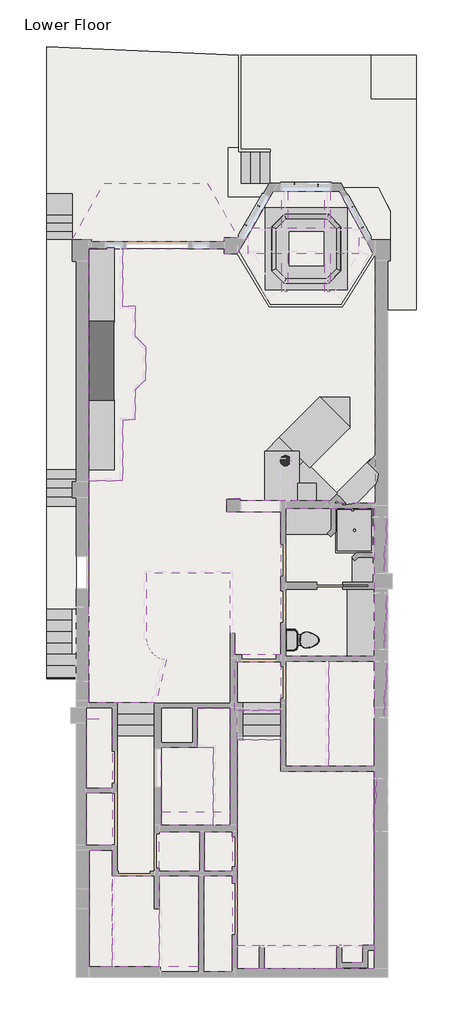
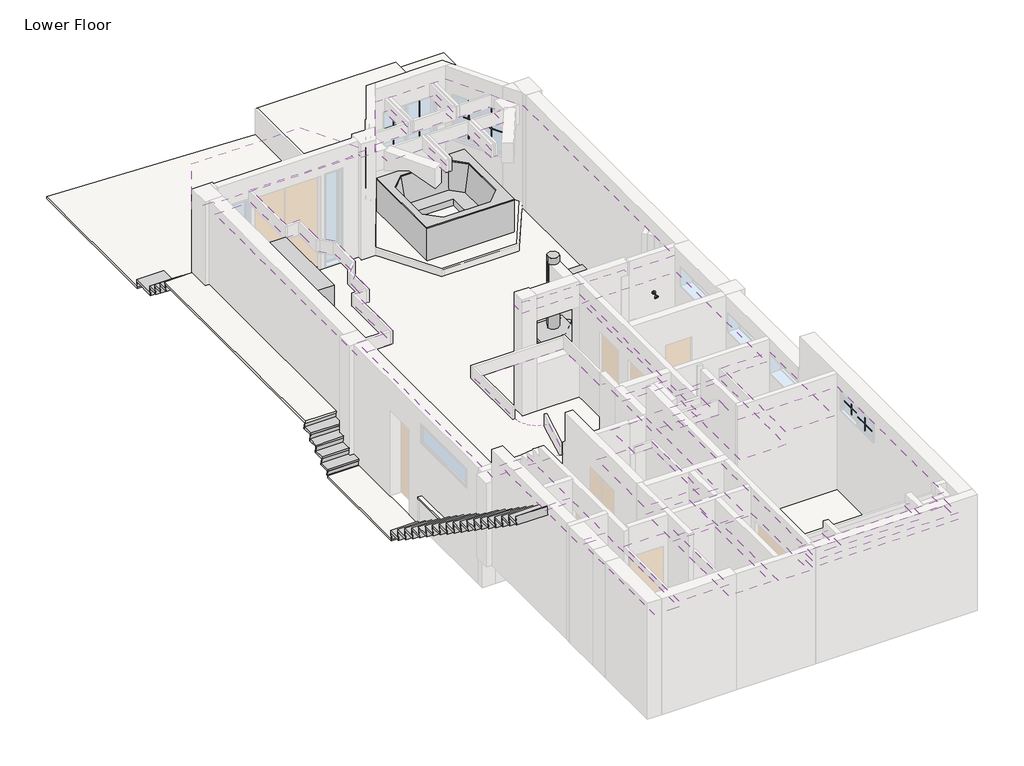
# One storey, part 4 of 4: 27 proxies, 22 coverings, 12 slabs, 6 stair flights, 4 flow terminals, 1 column, 1 furniture element.
"""IFC4 building model written with IfcOpenShell, lengths in millimetres."""

from ifc_helpers import new_model, si_unit, point, frame, frame_2d, origin, origin_with_axes, place, context, project, spatial, polyline, circle_curve, trimmed, segment, composite_curve, outline, extrude, transform, mapped, element, save
from components import countertop_rectangle_shape_base_default_1_dabe7d19, countertop_rectangle_shape_base_default_1_3828c231, countertop_rectangle_shape_base_default_1_d0c3f7c2, countertop_rectangle_shape_base_default_1_6354a859, countertop_rectangle_shape_base_default_1_48722834, countertop_rectangle_shape_base_default_1_b1be43f6, countertop_rectangle_shape_base_default_1_043f96cc, countertop_rectangle_shape_base_default_1_dfdfaf2e, countertop_rectangle_shape_base_default_1_419f4a6f, countertop_rectangle_shape_base_default_1_692601e1, countertop_rectangle_shape_base_default_1_f7c01886, countertop_rectangle_shape_base_default_1_2039a246, fireplace_default_1_0e99d6f0, muntin_pattern_2x2_muntin_pattern_2x2_58ab9d3a, muntin_pattern_2x2_muntin_pattern_2x2_46a83522, muntin_pattern_2x2_muntin_pattern_2x2_2c45d3f9, muntin_pattern_2x2_muntin_pattern_2x2_764e81ae, bath_shower_basin_rectangular_default_1_7944e005, default_1_5ae3063e, default_1_a9700879, toilet_default_1_5cb52bd4, toilet_default_1_183bbd19, furniture_096bb673, stair_flight_50mm_tread_25mm_nosing_13mm_riser_e6fdfd2e, stair_flight_50mm_tread_25mm_nosing_13mm_riser_114795e4, stair_flight_50mm_tread_25mm_nosing_13mm_riser_46b21143, stair_flight_50mm_tread_25mm_nosing_13mm_riser_50f6e7d9, stair_flight_50mm_tread_25mm_nosing_13mm_riser_f689957c, stair_flight_50mm_tread_25mm_nosing_13mm_riser_b3e14c1b

model = new_model("IFC4")

# Units and contexts
model_context = context("Model", 3, world=origin())
ifc_project = project(units=[si_unit("LENGTHUNIT", "METRE", prefix="MILLI")], contexts=[model_context])

# Site, building, storey
site = spatial("IfcSite", under=ifc_project)
building = spatial("IfcBuilding", under=site)
storey = spatial("IfcBuildingStorey", under=building, Name="Lower Floor", Elevation=-2743.2)

# Proxies
placement = place(None, origin())
countertop_rectangle_shape_base_default_1_shape = countertop_rectangle_shape_base_default_1_dabe7d19(model_context)
element("IfcBuildingElementProxy", 1, Name="Countertop- Rectangle shape base : Default 1", ObjectType="Countertop- Rectangle shape base : Default 1", at=placement, inside=storey, context=model_context, shape_type="MappedRepresentation", body=[
    mapped(countertop_rectangle_shape_base_default_1_shape, transform((-5137.15, 9242.3564249, -2743.2), x_axis=(0.0, 1.0, 0.0), y_axis=(-1.0, 0.0, 0.0), z_axis=(0.0, 0.0, 1.0))),
])
countertop_rectangle_shape_base_default_1_2_shape = countertop_rectangle_shape_base_default_1_3828c231(model_context)
element("IfcBuildingElementProxy", 2, Name="Countertop- Rectangle shape base : Default 1", ObjectType="Countertop- Rectangle shape base : Default 1", at=placement, inside=storey, context=model_context, shape_type="MappedRepresentation", body=[
    mapped(countertop_rectangle_shape_base_default_1_2_shape, transform((-5137.15, 12785.725, -2743.2), x_axis=(0.0, 1.0, 0.0), y_axis=(-1.0, 0.0, 0.0), z_axis=(0.0, 0.0, 1.0))),
])
countertop_rectangle_shape_base_default_1_3_shape = countertop_rectangle_shape_base_default_1_d0c3f7c2(model_context)
element("IfcBuildingElementProxy", 3, Name="Countertop- Rectangle shape base : Default 1", ObjectType="Countertop- Rectangle shape base : Default 1", at=placement, inside=storey, context=model_context, shape_type="MappedRepresentation", body=[
    mapped(countertop_rectangle_shape_base_default_1_3_shape, transform((774.7, 10906.6021923, -2743.2), x_axis=(-1.0, 0.0, 0.0), y_axis=(0.0, -1.0, 0.0), z_axis=(0.0, 0.0, 1.0))),
])
countertop_rectangle_shape_base_default_1_4_shape = countertop_rectangle_shape_base_default_1_6354a859(model_context)
element("IfcBuildingElementProxy", 4, Name="Countertop- Rectangle shape base : Default 1", ObjectType="Countertop- Rectangle shape base : Default 1", at=placement, inside=storey, context=model_context, shape_type="MappedRepresentation", body=[
    mapped(countertop_rectangle_shape_base_default_1_4_shape, transform((-726.6076836, 9250.1769491, -2743.2), x_axis=(0.7071067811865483, 0.7071067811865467, 0.0), y_axis=(-0.7071067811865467, 0.7071067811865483, 0.0), z_axis=(0.0, 0.0, 1.0))),
])
countertop_rectangle_shape_base_default_1_5_shape = countertop_rectangle_shape_base_default_1_48722834(model_context)
element("IfcBuildingElementProxy", 5, Name="Countertop- Rectangle shape base : Default 1", ObjectType="Countertop- Rectangle shape base : Default 1", at=placement, inside=storey, context=model_context, shape_type="MappedRepresentation", body=[
    mapped(countertop_rectangle_shape_base_default_1_5_shape, transform((-905.8096327, 10301.9403673, -2743.2), x_axis=(-0.7071067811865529, -0.7071067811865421, 0.0), y_axis=(0.7071067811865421, -0.7071067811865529, 0.0), z_axis=(0.0, 0.0, 1.0))),
])
countertop_rectangle_shape_base_default_1_6_shape = countertop_rectangle_shape_base_default_1_b1be43f6(model_context)
element("IfcBuildingElementProxy", 6, Name="Countertop- Rectangle shape base : Default 1", ObjectType="Countertop- Rectangle shape base : Default 1", at=placement, inside=storey, context=model_context, shape_type="MappedRepresentation", body=[
    mapped(countertop_rectangle_shape_base_default_1_6_shape, transform((-1612.9, 9775.825, -2743.2), x_axis=(0.0, -1.0, 0.0), y_axis=(1.0, 0.0, 0.0), z_axis=(0.0, 0.0, 1.0))),
])
countertop_rectangle_shape_base_default_1_7_shape = countertop_rectangle_shape_base_default_1_043f96cc(model_context)
element("IfcBuildingElementProxy", 7, Name="Countertop- Rectangle shape base : Default 1", ObjectType="Countertop- Rectangle shape base : Default 1", at=placement, inside=storey, context=model_context, shape_type="MappedRepresentation", body=[
    mapped(countertop_rectangle_shape_base_default_1_7_shape, transform((285.9400541, 8563.2550929, -2743.2), x_axis=(-0.7036149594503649, 0.7105814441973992, 0.0), y_axis=(-0.7105814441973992, -0.7036149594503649, 0.0), z_axis=(0.0, 0.0, 1.0))),
])
countertop_rectangle_shape_base_default_1_8_shape = countertop_rectangle_shape_base_default_1_dfdfaf2e(model_context)
element("IfcBuildingElementProxy", 8, Name="Countertop- Rectangle shape base : Default 1", ObjectType="Countertop- Rectangle shape base : Default 1", at=placement, inside=storey, context=model_context, shape_type="MappedRepresentation", body=[
    mapped(countertop_rectangle_shape_base_default_1_8_shape, transform((-1406.525, 8255.0, -2743.2), x_axis=(1.0, 0.0, 0.0), y_axis=(0.0, 1.0, 0.0), z_axis=(0.0, 0.0, 1.0))),
])
countertop_rectangle_shape_base_default_1_9_shape = countertop_rectangle_shape_base_default_1_419f4a6f(model_context)
element("IfcBuildingElementProxy", 9, Name="Countertop- Rectangle shape base : Default 1", ObjectType="Countertop- Rectangle shape base : Default 1", at=placement, inside=storey, context=model_context, shape_type="MappedRepresentation", body=[
    mapped(countertop_rectangle_shape_base_default_1_9_shape, transform((-1371.6, 7581.9, -2743.2), x_axis=(1.0, 0.0, 0.0), y_axis=(0.0, 1.0, 0.0), z_axis=(0.0, 0.0, 1.0))),
])
countertop_rectangle_shape_base_default_1_10_shape = countertop_rectangle_shape_base_default_1_692601e1(model_context)
element("IfcBuildingElementProxy", 10, Name="Countertop- Rectangle shape base : Default 1", ObjectType="Countertop- Rectangle shape base : Default 1", at=placement, inside=storey, context=model_context, shape_type="MappedRepresentation", body=[
    mapped(countertop_rectangle_shape_base_default_1_10_shape, transform((-69.85, 6416.675, -2743.2), x_axis=(1.0, 0.0, 0.0), y_axis=(0.0, 1.0, 0.0), z_axis=(0.0, 0.0, 1.0))),
])
countertop_rectangle_shape_base_default_1_11_shape = countertop_rectangle_shape_base_default_1_f7c01886(model_context)
element("IfcBuildingElementProxy", 11, Name="Countertop- Rectangle shape base : Default 1", ObjectType="Countertop- Rectangle shape base : Default 1", at=placement, inside=storey, context=model_context, shape_type="MappedRepresentation", body=[
    mapped(countertop_rectangle_shape_base_default_1_11_shape, transform((1022.35, 4781.55, -2743.2), x_axis=(0.0, 1.0, 0.0), y_axis=(-1.0, 0.0, 0.0), z_axis=(0.0, 0.0, 1.0))),
])
countertop_rectangle_shape_base_default_1_12_shape = countertop_rectangle_shape_base_default_1_2039a246(model_context)
element("IfcBuildingElementProxy", 12, Name="Countertop- Rectangle shape base : Default 1", ObjectType="Countertop- Rectangle shape base : Default 1", at=placement, inside=storey, context=model_context, shape_type="MappedRepresentation", body=[
    mapped(countertop_rectangle_shape_base_default_1_12_shape, transform((898.422842, 9636.7998684, -2743.2), x_axis=(-0.707106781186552, -0.7071067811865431, 0.0), y_axis=(0.7071067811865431, -0.707106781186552, 0.0), z_axis=(0.0, 0.0, 1.0))),
])
fireplace_default_1_shape = fireplace_default_1_0e99d6f0(model_context)
element("IfcBuildingElementProxy", 13, Name="Fireplace : Default 1", ObjectType="Fireplace : Default 1", at=placement, inside=storey, context=model_context, shape_type="MappedRepresentation", body=[
    mapped(fireplace_default_1_shape, transform((-5910.25, 11750.675, -2743.2), x_axis=(0.0, 1.0, 0.0), y_axis=(-1.0, 0.0, 0.0), z_axis=(0.0, 0.0, 1.0))),
])
muntin_pattern_2x2_muntin_pattern_2x2_shape = muntin_pattern_2x2_muntin_pattern_2x2_58ab9d3a(model_context)
element("IfcBuildingElementProxy", 14, Name="Muntin Pattern_2x2 : Muntin Pattern_2x2", ObjectType="Muntin Pattern_2x2 : Muntin Pattern_2x2", at=placement, inside=storey, context=model_context, shape_type="MappedRepresentation", body=[
    mapped(muntin_pattern_2x2_muntin_pattern_2x2_shape, transform((-1786.8552435, 15419.1500566, -1619.25), x_axis=(0.49654707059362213, 0.8680097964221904, 0.0), y_axis=(-0.8680097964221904, 0.49654707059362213, 0.0), z_axis=(0.0, 0.0, 1.0))),
])
element("IfcBuildingElementProxy", 15, Name="Muntin Pattern_2x2 : Muntin Pattern_2x2", ObjectType="Muntin Pattern_2x2 : Muntin Pattern_2x2", at=placement, inside=storey, context=model_context, shape_type="MappedRepresentation", body=[
    mapped(muntin_pattern_2x2_muntin_pattern_2x2_shape, transform((-2095.0260972, 14969.9573551, -1619.25), x_axis=(0.49654707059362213, 0.8680097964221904, 0.0), y_axis=(-0.8680097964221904, 0.49654707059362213, 0.0), z_axis=(0.0, 0.0, 1.0))),
])
element("IfcBuildingElementProxy", 16, Name="Muntin Pattern_2x2 : Muntin Pattern_2x2", ObjectType="Muntin Pattern_2x2 : Muntin Pattern_2x2", at=placement, inside=storey, context=model_context, shape_type="MappedRepresentation", body=[
    mapped(muntin_pattern_2x2_muntin_pattern_2x2_shape, transform((675.3830829, 14916.4720419, -1619.25), x_axis=(0.4781392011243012, -0.8782840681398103, 0.0), y_axis=(0.8782840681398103, 0.4781392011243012, 0.0), z_axis=(0.0, 0.0, 1.0))),
])
element("IfcBuildingElementProxy", 17, Name="Muntin Pattern_2x2 : Muntin Pattern_2x2", ObjectType="Muntin Pattern_2x2 : Muntin Pattern_2x2", at=placement, inside=storey, context=model_context, shape_type="MappedRepresentation", body=[
    mapped(muntin_pattern_2x2_muntin_pattern_2x2_shape, transform((454.8290839, 15414.5677071, -1619.25), x_axis=(0.4781392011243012, -0.8782840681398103, 0.0), y_axis=(0.8782840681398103, 0.4781392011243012, 0.0), z_axis=(0.0, 0.0, 1.0))),
])
muntin_pattern_2x2_muntin_pattern_2x2_2_shape = muntin_pattern_2x2_muntin_pattern_2x2_46a83522(model_context)
element("IfcBuildingElementProxy", 18, Name="Muntin Pattern_2x2 : Muntin Pattern_2x2", ObjectType="Muntin Pattern_2x2 : Muntin Pattern_2x2", at=placement, inside=storey, context=model_context, shape_type="MappedRepresentation", body=[
    mapped(muntin_pattern_2x2_muntin_pattern_2x2_2_shape, transform((-383.926034, 15909.925, -1619.25), x_axis=(1.0, 0.0, 0.0), y_axis=(0.0, 1.0, 0.0), z_axis=(0.0, 0.0, 1.0))),
])
element("IfcBuildingElementProxy", 19, Name="Muntin Pattern_2x2 : Muntin Pattern_2x2", ObjectType="Muntin Pattern_2x2 : Muntin Pattern_2x2", at=placement, inside=storey, context=model_context, shape_type="MappedRepresentation", body=[
    mapped(muntin_pattern_2x2_muntin_pattern_2x2_2_shape, transform((-939.551034, 15954.375, -1619.25), x_axis=(1.0, 0.0, 0.0), y_axis=(0.0, 1.0, 0.0), z_axis=(0.0, 0.0, 1.0))),
])
muntin_pattern_2x2_muntin_pattern_2x2_3_shape = muntin_pattern_2x2_muntin_pattern_2x2_2c45d3f9(model_context)
element("IfcBuildingElementProxy", 20, Name="Muntin Pattern_2x2 : Muntin Pattern_2x2", ObjectType="Muntin Pattern_2x2 : Muntin Pattern_2x2", at=placement, inside=storey, context=model_context, shape_type="MappedRepresentation", body=[
    mapped(muntin_pattern_2x2_muntin_pattern_2x2_3_shape, transform((1216.025, 7065.9625, -730.25), x_axis=(0.0, -1.0, 0.0), y_axis=(1.0, 0.0, 0.0), z_axis=(0.0, 0.0, 1.0))),
])
element("IfcBuildingElementProxy", 21, Name="Muntin Pattern_2x2 : Muntin Pattern_2x2", ObjectType="Muntin Pattern_2x2 : Muntin Pattern_2x2", at=placement, inside=storey, context=model_context, shape_type="MappedRepresentation", body=[
    mapped(muntin_pattern_2x2_muntin_pattern_2x2_3_shape, transform((1260.475, 7697.7875, -730.25), x_axis=(0.0, -1.0, 0.0), y_axis=(1.0, 0.0, 0.0), z_axis=(0.0, 0.0, 1.0))),
])
element("IfcBuildingElementProxy", 22, Name="Muntin Pattern_2x2 : Muntin Pattern_2x2", ObjectType="Muntin Pattern_2x2 : Muntin Pattern_2x2", at=placement, inside=storey, context=model_context, shape_type="MappedRepresentation", body=[
    mapped(muntin_pattern_2x2_muntin_pattern_2x2_3_shape, transform((1216.025, 5262.5625, -730.25), x_axis=(0.0, -1.0, 0.0), y_axis=(1.0, 0.0, 0.0), z_axis=(0.0, 0.0, 1.0))),
])
element("IfcBuildingElementProxy", 23, Name="Muntin Pattern_2x2 : Muntin Pattern_2x2", ObjectType="Muntin Pattern_2x2 : Muntin Pattern_2x2", at=placement, inside=storey, context=model_context, shape_type="MappedRepresentation", body=[
    mapped(muntin_pattern_2x2_muntin_pattern_2x2_3_shape, transform((1260.475, 5894.3875, -730.25), x_axis=(0.0, -1.0, 0.0), y_axis=(1.0, 0.0, 0.0), z_axis=(0.0, 0.0, 1.0))),
])
element("IfcBuildingElementProxy", 24, Name="Muntin Pattern_2x2 : Muntin Pattern_2x2", ObjectType="Muntin Pattern_2x2 : Muntin Pattern_2x2", at=placement, inside=storey, context=model_context, shape_type="MappedRepresentation", body=[
    mapped(muntin_pattern_2x2_muntin_pattern_2x2_3_shape, transform((1216.025, 3646.4875, -730.25), x_axis=(0.0, -1.0, 0.0), y_axis=(1.0, 0.0, 0.0), z_axis=(0.0, 0.0, 1.0))),
])
element("IfcBuildingElementProxy", 25, Name="Muntin Pattern_2x2 : Muntin Pattern_2x2", ObjectType="Muntin Pattern_2x2 : Muntin Pattern_2x2", at=placement, inside=storey, context=model_context, shape_type="MappedRepresentation", body=[
    mapped(muntin_pattern_2x2_muntin_pattern_2x2_3_shape, transform((1260.475, 4278.3125, -730.25), x_axis=(0.0, -1.0, 0.0), y_axis=(1.0, 0.0, 0.0), z_axis=(0.0, 0.0, 1.0))),
])
muntin_pattern_2x2_muntin_pattern_2x2_4_shape = muntin_pattern_2x2_muntin_pattern_2x2_764e81ae(model_context)
element("IfcBuildingElementProxy", 26, Name="Muntin Pattern_2x2 : Muntin Pattern_2x2", ObjectType="Muntin Pattern_2x2 : Muntin Pattern_2x2", at=placement, inside=storey, context=model_context, shape_type="MappedRepresentation", body=[
    mapped(muntin_pattern_2x2_muntin_pattern_2x2_4_shape, transform((1006.475, 1524.0, 82.55), x_axis=(0.0, 1.0, 0.0), y_axis=(-1.0, 0.0, 0.0), z_axis=(0.0, 0.0, 1.0))),
])
element("IfcBuildingElementProxy", 27, Name="Muntin Pattern_2x2 : Muntin Pattern_2x2", ObjectType="Muntin Pattern_2x2 : Muntin Pattern_2x2", at=placement, inside=storey, context=model_context, shape_type="MappedRepresentation", body=[
    mapped(muntin_pattern_2x2_muntin_pattern_2x2_4_shape, transform((962.025, 930.275, 82.55), x_axis=(0.0, 1.0, 0.0), y_axis=(-1.0, 0.0, 0.0), z_axis=(0.0, 0.0, 1.0))),
])

# Column
element("IfcColumn", 28, ObjectType="Circular Column 3D : Default 1", at=placement, inside=storey, context=model_context, shape_type="SweptSolid", body=[
    extrude(outline(composite_curve([segment(trimmed(circle_curve(frame_2d((-1149.35, 9385.3)), 123.825), [point((-1273.175, 9385.3))], [point((-1025.525, 9385.3))], False, "CARTESIAN"), True, "CONTINUOUS"), segment(trimmed(circle_curve(frame_2d((-1149.35, 9385.3)), 123.825), [point((-1025.525, 9385.3))], [point((-1273.175, 9385.3))], False, "CARTESIAN"), True, "CONTINUOUS")], self_intersect=False)), frame((0.0, 0.0, -2590.8), z_axis=(0.0, 0.0, 1.0), x_axis=(1.0, 0.0, 0.0)), (0.0, 0.0, 1.0), 2438.4),
])

# Coverings
element("IfcCovering", 29, ObjectType="1/2\" Ceiling", at=placement, inside=storey, context=model_context, shape_type="SweptSolid", body=[
    extrude(outline(polyline([(-4146.55, -457.2), (-4146.55, -2609.85), (-5257.8, -2609.85), (-5257.8, -457.2), (-4146.55, -457.2)])), frame((0.0, 0.0, 355.6), z_axis=(0.0, 0.0, 1.0), x_axis=(1.0, 0.0, 0.0)), (0.0, 0.0, 1.0), 12.7),
])
element("IfcCovering", 30, ObjectType="1/2\" Ceiling", at=placement, inside=storey, context=model_context, shape_type="SweptSolid", body=[
    extrude(outline(polyline([(-4146.55, -457.2), (-3206.75, -457.2), (-3206.75, -2609.85), (-4146.55, -2609.85), (-4146.55, -457.2)])), frame((0.0, 0.0, 101.6), z_axis=(0.0, 0.0, 1.0), x_axis=(1.0, 0.0, 0.0)), (0.0, 0.0, 1.0), 12.7),
])
element("IfcCovering", 31, ObjectType="1/2\" Ceiling", at=placement, inside=storey, context=model_context, shape_type="SweptSolid", body=[
    extrude(outline(polyline([(-5797.55, 152.4), (-5257.8, 152.4), (-5257.8, -2609.85), (-5797.55, -2609.85), (-5797.55, 152.4)])), frame((0.0, 0.0, 228.6), z_axis=(0.0, 0.0, 1.0), x_axis=(1.0, 0.0, 0.0)), (0.0, 0.0, 1.0), 12.7),
])
element("IfcCovering", 32, ObjectType="1/2\" Ceiling", at=placement, inside=storey, context=model_context, shape_type="SweptSolid", body=[
    extrude(outline(polyline([(-1149.35, 8261.35), (952.5, 8261.35), (952.5, 4749.8), (-1149.35, 4749.8), (-1149.35, 8261.35)])), frame((0.0, 0.0, -609.6), z_axis=(0.0, 0.0, 1.0), x_axis=(1.0, 0.0, 0.0)), (0.0, 0.0, 1.0), 12.7),
])
element("IfcCovering", 33, ObjectType="1/2\" Ceiling", at=placement, inside=storey, context=model_context, shape_type="SweptSolid", body=[
    extrude(outline(polyline([(-127.0, 2139.95), (-127.0, 4635.5), (952.5, 4635.5), (952.5, 2139.95), (-127.0, 2139.95)])), frame((0.0, 0.0, -304.8), z_axis=(0.0, 0.0, 1.0), x_axis=(1.0, 0.0, 0.0)), (0.0, 0.0, 1.0), 12.7),
])
element("IfcCovering", 34, ObjectType="1/2\" Ceiling", at=placement, inside=storey, context=model_context, shape_type="SweptSolid", body=[
    extrude(outline(polyline([(-1149.35, 4635.5), (-127.0, 4635.5), (-127.0, 2139.95), (-1149.35, 2139.95), (-1149.35, 4635.5)])), frame((0.0, 0.0, -609.6), z_axis=(0.0, 0.0, 1.0), x_axis=(1.0, 0.0, 0.0)), (0.0, 0.0, 1.0), 12.7),
])
element("IfcCovering", 35, ObjectType="1/2\" Ceiling", at=placement, inside=storey, context=model_context, shape_type="SweptSolid", body=[
    extrude(outline(composite_curve([segment(polyline([(-5810.25, 8904.1503266), (-5012.928125, 8904.1503266), (-5012.928125, 10351.9503266), (-4708.128125, 10351.9503266), (-4708.128125, 11063.1503266), (-4467.5532883, 11303.7251633), (-4467.5532883, 12091.1251633), (-4708.128125, 12331.7), (-4708.128125, 13042.9), (-5012.928125, 13042.9), (-5012.928125, 14408.15), (-2603.5, 14408.15), (-2603.5, 14293.85), (-2287.9319, 14293.85), (-1441.5518, 15773.4), (125.7251, 15773.4), (958.85, 14243.05), (977.9, 14243.05), (977.9, 8375.65), (-107.95, 8375.65), (-107.95, 8439.15), (-2216.15, 8439.15), (-2216.15, 8477.25), (-2540.0, 8477.25), (-2540.0, 8172.45), (-1263.65, 8172.45), (-1263.65, 4787.9), (-2349.5, 4787.9), (-2349.5, 5295.9), (-2463.8, 5295.9), (-2463.8, 6711.95), (-4452.2133268, 6711.95), (-4452.2133268, 5148.4920136)]), True, "CONTINUOUS"), segment(trimmed(circle_curve(frame_2d((-3930.8627558, 5190.3366105)), 523.0271391), [point((-4452.2133268, 5148.4920136))], [point((-3974.6358064, 4669.1444116))], True, "CARTESIAN"), True, "CONTINUOUS"), segment(polyline([(-3974.6358064, 4669.1444116), (-4222.5357954, 3644.9), (-5810.25, 3644.9), (-5810.25, 8904.1503266)]), True, "CONTINUOUS")], self_intersect=False)), frame((0.0, 0.0, -304.8), z_axis=(0.0, 0.0, 1.0), x_axis=(1.0, 0.0, 0.0)), (0.0, 0.0, 1.0), 12.7),
])
element("IfcCovering", 36, ObjectType="1/2\" Ceiling", at=placement, inside=storey, context=model_context, shape_type="SweptSolid", body=[
    extrude(outline(polyline([(-5012.928125, 13042.9), (-4708.128125, 13042.9), (-4708.128125, 12331.7), (-4467.5532883, 12091.1251633), (-4467.5532883, 11303.7251633), (-4708.128125, 11063.1503266), (-4708.128125, 10351.9503266), (-5012.928125, 10351.9503266), (-5012.928125, 8904.1503266), (-5810.25, 8904.1503266), (-5810.25, 14427.2), (-5012.928125, 14427.2), (-5012.928125, 13042.9)])), frame((0.0, 0.0, -609.6), z_axis=(0.0, 0.0, 1.0), x_axis=(1.0, 0.0, 0.0)), (0.0, 0.0, 1.0), 12.7),
])
element("IfcCovering", 37, ObjectType="1/2\" Ceiling", at=placement, inside=storey, context=model_context, shape_type="SweptSolid", body=[
    extrude(outline(polyline([(-1238.3518, 14903.45), (-1238.3518, 15773.4), (-1098.6518, 15773.4), (-1098.6518, 14903.45), (-224.825268, 14903.45), (-224.825268, 15773.4), (-85.125268, 15773.4), (-85.125268, 14903.45), (582.3683841, 14903.45), (599.3272216, 14903.45), (723.7774141, 14674.85), (582.3683841, 14674.85), (582.3683841, 14293.85), (-85.125268, 14293.85), (-85.125268, 13392.15), (-224.825268, 13392.15), (-224.825268, 14293.85), (-1098.6518, 14293.85), (-1098.6518, 13392.15), (-1238.3518, 13392.15), (-1238.3518, 14293.85), (-2027.3741204, 14293.85), (-2027.3741204, 14674.85), (-2069.9799429, 14674.85), (-1939.2087687, 14903.45), (-1238.3518, 14903.45)])), frame((0.0, 0.0, -609.6), z_axis=(0.0, 0.0, 1.0), x_axis=(1.0, 0.0, 0.0)), (0.0, 0.0, 1.0), 12.7),
])
element("IfcCovering", 38, ObjectType="1/2\" Ceiling", at=placement, inside=storey, context=model_context, shape_type="SweptSolid", body=[
    extrude(outline(polyline([(-1771.65, -2108.2), (-1771.65, -2660.65), (-2292.35, -2660.65), (-2292.35, 666.75), (-2292.35, 2774.95), (-1263.65, 2774.95), (-1263.65, 2025.65), (952.5, 2025.65), (952.5, -2101.85), (685.8, -2101.85), (685.8, -2520.95), (184.15, -2520.95), (184.15, -2101.85), (69.85, -2101.85), (69.85, -2660.65), (-1657.35, -2660.65), (-1657.35, -2108.2), (-1771.65, -2108.2)])), frame((0.0, 0.0, 457.2), z_axis=(0.0, 0.0, 1.0), x_axis=(1.0, 0.0, 0.0)), (0.0, 0.0, 1.0), 12.7),
])
element("IfcCovering", 39, ObjectType="1/2\" Ceiling", at=placement, inside=storey, context=model_context, shape_type="SweptSolid", body=[
    extrude(outline(polyline([(-2292.35, 2774.95), (-2292.35, 3467.1), (-1263.65, 3467.1), (-1263.65, 2774.95), (-2292.35, 2774.95)])), frame((0.0, 0.0, 101.6), z_axis=(0.0, 0.0, 1.0), x_axis=(1.0, 0.0, 0.0)), (0.0, 0.0, 1.0), 12.7),
])
element("IfcCovering", 40, ObjectType="1/2\" Ceiling", at=placement, inside=storey, context=model_context, shape_type="SweptSolid", body=[
    extrude(outline(polyline([(-2355.85, 4622.8), (-1263.65, 4622.8), (-1263.65, 3467.1), (-2355.85, 3467.1), (-2355.85, 4622.8)])), frame((0.0, 0.0, -304.8), z_axis=(0.0, 0.0, 1.0), x_axis=(1.0, 0.0, 0.0)), (0.0, 0.0, 1.0), 12.7),
])
element("IfcCovering", 41, ObjectType="1/2\" Ceiling", at=placement, inside=storey, context=model_context, shape_type="SweptSolid", body=[
    extrude(outline(polyline([(-2406.65, -342.9), (-3073.4, -342.9), (-3073.4, 584.2), (-2406.65, 584.2), (-2406.65, -342.9)])), origin_with_axes(), (0.0, 0.0, 1.0), 12.7),
])
element("IfcCovering", 42, ObjectType="1/2\" Ceiling", at=placement, inside=storey, context=model_context, shape_type="SweptSolid", body=[
    extrude(outline(polyline([(-2406.65, -2724.15), (-3092.45, -2724.15), (-3092.45, -457.2), (-2406.65, -457.2), (-2406.65, -2724.15)])), frame((0.0, 0.0, 152.4), z_axis=(0.0, 0.0, 1.0), x_axis=(1.0, 0.0, 0.0)), (0.0, 0.0, 1.0), 12.7),
])
element("IfcCovering", 43, ObjectType="1/2\" Ceiling", at=placement, inside=storey, context=model_context, shape_type="SweptSolid", body=[
    extrude(outline(polyline([(-3187.7, -342.9), (-4146.55, -342.9), (-4146.55, 584.2), (-3187.7, 584.2), (-3187.7, -342.9)])), frame((0.0, 0.0, 101.6), z_axis=(0.0, 0.0, 1.0), x_axis=(1.0, 0.0, 0.0)), (0.0, 0.0, 1.0), 12.7),
])
element("IfcCovering", 44, ObjectType="1/2\" Ceiling", at=placement, inside=storey, context=model_context, shape_type="SweptSolid", body=[
    extrude(outline(polyline([(-2863.85, 2590.8), (-2863.85, 749.3), (-4095.75, 749.3), (-4095.75, 2590.8), (-3238.5, 2590.8), (-2863.85, 2590.8)])), frame((0.0, 0.0, 152.4), z_axis=(0.0, 0.0, 1.0), x_axis=(1.0, 0.0, 0.0)), (0.0, 0.0, 1.0), 12.7),
])
element("IfcCovering", 45, ObjectType="1/2\" Ceiling", at=placement, inside=storey, context=model_context, shape_type="SweptSolid", body=[
    extrude(outline(polyline([(-3244.85, 2584.45), (-3244.85, 3517.9), (-2457.45, 3517.9), (-2457.45, 749.3), (-2863.85, 749.3), (-2863.85, 2584.45), (-3244.85, 2584.45)])), origin_with_axes(), (0.0, 0.0, 1.0), 12.7),
])
element("IfcCovering", 46, ObjectType="1/2\" Ceiling", at=placement, inside=storey, context=model_context, shape_type="SweptSolid", body=[
    extrude(outline(polyline([(-2292.35, -2101.85), (952.5, -2101.85), (952.5, -2660.65), (-2292.35, -2660.65), (-2292.35, -2101.85)])), frame((0.0, 0.0, 304.8), z_axis=(0.0, 0.0, 1.0), x_axis=(1.0, 0.0, 0.0)), (0.0, 0.0, 1.0), 12.7),
])
element("IfcCovering", 47, ObjectType="1/2\" Ceiling", at=placement, inside=storey, context=model_context, shape_type="SweptSolid", body=[
    extrude(outline(polyline([(-5257.8, 1511.3), (-5257.8, 266.7), (-5873.75, 266.7), (-5873.75, 1511.3), (-5257.8, 1511.3)])), frame((0.0, 0.0, 228.6), z_axis=(0.0, 0.0, 1.0), x_axis=(1.0, 0.0, 0.0)), (0.0, 0.0, 1.0), 12.7),
])
element("IfcCovering", 48, ObjectType="1/2\" Ceiling", at=placement, inside=storey, context=model_context, shape_type="SweptSolid", body=[
    extrude(outline(polyline([(-5873.75, 3266.4167), (-5257.8, 3266.4167), (-5257.8, 1625.6), (-5873.75, 1625.6), (-5873.75, 3266.4167)])), frame((0.0, 0.0, 228.6), z_axis=(0.0, 0.0, 1.0), x_axis=(1.0, 0.0, 0.0)), (0.0, 0.0, 1.0), 12.7),
])
element("IfcCovering", 49, ObjectType="1/2\" Ceiling", at=placement, inside=storey, context=model_context, shape_type="SweptSolid", body=[
    extrude(outline(polyline([(-5441.95, 15963.9), (-3003.55, 15963.9), (-2276.4991049, 14674.85), (-2616.2, 14674.85), (-2616.2, 14573.25), (-5727.7, 14573.25), (-5727.7, 14624.05), (-6203.95, 14624.05), (-5441.95, 15963.9)])), frame((0.0, 0.0, -482.6), z_axis=(0.0, 0.0, 1.0), x_axis=(1.0, 0.0, 0.0)), (0.0, 0.0, 1.0), 12.7),
])
element("IfcCovering", 50, ObjectType="1/2\" Ceiling", at=placement, inside=storey, context=model_context, shape_type="SweptSolid", body=[
    extrude(outline(polyline([(952.5, -2660.65), (-2292.35, -2660.65), (-2292.35, -2101.85), (952.5, -2101.85), (952.5, -2660.65)])), frame((0.0, 0.0, 152.4), z_axis=(0.0, 0.0, 1.0), x_axis=(1.0, 0.0, 0.0)), (0.0, 0.0, 1.0), 12.7),
])

# Flow terminals
bath_shower_basin_rectangular_default_1_shape = bath_shower_basin_rectangular_default_1_7944e005(model_context)
element("IfcFlowTerminal", 51, ObjectType="Bath- Shower - Basin Rectangular : Default 1", at=placement, inside=storey, context=model_context, shape_type="MappedRepresentation", body=[
    mapped(bath_shower_basin_rectangular_default_1_shape, transform((485.775, 7734.3, -2743.2), x_axis=(-1.0, 0.0, 0.0), y_axis=(0.0, -1.0, 0.0), z_axis=(0.0, 0.0, 1.0))),
])
default_1_shape = default_1_5ae3063e(model_context)
element("IfcFlowTerminal", 52, ObjectType="Bath-Hottub : Default 1", at=placement, inside=storey, context=model_context, shape_type="MappedRepresentation", body=[
    mapped(default_1_shape, transform((-655.55, 14410.6, -2743.2), x_axis=(1.0, 0.0, 0.0), y_axis=(0.0, 1.0, 0.0), z_axis=(0.0, 0.0, 1.0))),
])
default_1_2_shape = default_1_a9700879(model_context)
element("IfcFlowTerminal", 53, ObjectType="Bath-Showerhead : Default 1", at=placement, inside=storey, context=model_context, shape_type="MappedRepresentation", body=[
    mapped(default_1_2_shape, transform((445.2, 8257.1, -2743.2), x_axis=(1.0, 0.0, 0.0), y_axis=(0.0, 1.0, 0.0), z_axis=(0.0, 0.0, 1.0))),
])
toilet_default_1_shape = toilet_default_1_5cb52bd4(model_context)
toilet_default_1_2_shape = toilet_default_1_183bbd19(model_context)
element("IfcFlowTerminal", 54, ObjectType="Toilet : Default 1", at=placement, inside=storey, context=model_context, shape_type="MappedRepresentation", body=[
    mapped(toilet_default_1_shape, transform((-655.0039726, 5134.5, -2743.2), x_axis=(0.0, 1.0, 0.0), y_axis=(-1.0, 0.0, 0.0), z_axis=(0.0, 0.0, 1.0))),
    mapped(toilet_default_1_2_shape, transform((-655.0039726, 5134.5, -2743.2), x_axis=(0.0, 1.0, 0.0), y_axis=(-1.0, 0.0, 0.0), z_axis=(0.0, 0.0, 1.0))),
])

# Furniture
furniture_shape = furniture_096bb673(model_context)
element("IfcFurniture", 55, ObjectType="Upper Cabinet-Single Door-Wall : 15\"", at=placement, inside=storey, context=model_context, shape_type="MappedRepresentation", body=[
    mapped(furniture_shape, transform((-2714.4910294, 666.75, -2743.2), x_axis=(1.0, 0.0, 0.0), y_axis=(0.0, 1.0, 0.0), z_axis=(0.0, 0.0, 1.0))),
])

# Slabs
element("IfcSlab", 56, ObjectType="Ledge - 2\"", at=placement, inside=storey, context=model_context, shape_type="SweptSolid", body=[
    extrude(outline(polyline([(-2222.5463129, 14408.15), (-1441.5518, 15773.4), (125.7251, 15773.4), (977.9, 14208.0574467), (977.9, 4749.8), (977.9, 2139.95), (-1149.35, 2139.95), (-1149.35, 3619.9), (-2463.8, 3619.9), (-2463.8, 3632.2), (-4260.85, 3632.2), (-4260.85, 3619.9), (-5143.5, 3619.9), (-5143.5, 3644.9), (-5810.25, 3644.9), (-5810.25, 4749.8), (-5810.25, 14408.15), (-2222.5463129, 14408.15)])), frame((0.0, 0.0, -2794.0), z_axis=(0.0, 0.0, 1.0), x_axis=(1.0, 0.0, 0.0)), (0.0, 0.0, 1.0), 50.8),
])
element("IfcSlab", 57, ObjectType="Ledge - 2\"", at=placement, inside=storey, context=model_context, shape_type="SweptSolid", body=[
    extrude(outline(polyline([(-5873.75, 266.7), (-5873.75, 3530.6), (-5257.8, 3530.6), (-5257.8, 2850.0832), (-4260.85, 2850.0832), (-4260.85, 584.2), (-2292.35, 584.2), (-2292.35, 2850.0832), (-1263.65, 2850.0832), (-1263.65, 2025.65), (952.5, 2025.65), (952.5, -2660.65), (-2406.65, -2660.65), (-2406.65, -2724.15), (-4140.2, -2724.15), (-4140.2, -2609.85), (-5797.55, -2609.85), (-5797.55, 266.7), (-5873.75, 266.7)])), frame((0.0, 0.0, -2032.0), z_axis=(0.0, 0.0, 1.0), x_axis=(1.0, 0.0, 0.0)), (0.0, 0.0, 1.0), 50.8),
])
element("IfcSlab", 58, ObjectType="Ledge - 2\"", at=placement, inside=storey, context=model_context, shape_type="SweptSolid", body=[
    extrude(outline(polyline([(-1536.7, 13030.2), (-2287.9319, 14293.85), (-1441.5518, 15773.4), (125.7251, 15773.4), (958.85, 14243.05), (196.85, 13030.2), (-1536.7, 13030.2)])), frame((0.0, 0.0, -2641.6), z_axis=(0.0, 0.0, 1.0), x_axis=(1.0, 0.0, 0.0)), (0.0, 0.0, 1.0), 50.8),
])
element("IfcSlab", 59, ObjectType="Ledge - 2\"", at=placement, inside=storey, context=model_context, shape_type="SweptSolid", body=[
    extrude(outline(polyline([(-4095.75, 749.3), (-4095.75, 3530.6), (-2438.4, 3530.6), (-2438.4, 749.3), (-4095.75, 749.3)])), frame((0.0, 0.0, -2184.4), z_axis=(0.0, 0.0, 1.0), x_axis=(1.0, 0.0, 0.0)), (0.0, 0.0, 1.0), 50.8),
])
element("IfcSlab", 60, ObjectType="Ledge - 2\"", at=placement, inside=storey, context=model_context, shape_type="SweptSolid", body=[
    extrude(outline(polyline([(-6813.55, 8305.8), (-6115.05, 8305.8), (-6115.05, 5842.4), (-6813.55, 5842.4), (-6813.55, 8305.8)])), frame((0.0, 0.0, -2794.0), z_axis=(0.0, 0.0, 1.0), x_axis=(1.0, 0.0, 0.0)), (0.0, 0.0, 1.0), 50.8),
])
element("IfcSlab", 61, ObjectType="Ledge - 2\"", at=placement, inside=storey, context=model_context, shape_type="SweptSolid", body=[
    extrude(outline(polyline([(-6203.95, 14617.7), (-6203.95, 14116.05), (-6115.05, 14116.05), (-6115.05, 9182.1), (-6813.55, 9182.1), (-6813.55, 14617.7), (-6203.95, 14617.7)])), frame((0.0, 0.0, -2032.0), z_axis=(0.0, 0.0, 1.0), x_axis=(1.0, 0.0, 0.0)), (0.0, 0.0, 1.0), 50.8),
])
element("IfcSlab", 62, ObjectType="Ledge - 2\"", at=placement, inside=storey, context=model_context, shape_type="SweptSolid", body=[
    extrude(outline(polyline([(-6813.55, 19202.4), (-2260.6, 18992.85), (-2260.6, 16808.45), (-2501.9, 16808.45), (-2501.9, 15646.4), (-1719.0388502, 15646.4), (-2274.8163408, 14674.85), (-2603.5, 14674.85), (-2603.5, 14573.25), (-5753.1, 14573.25), (-5753.1, 14624.05), (-6203.95, 14624.05), (-6203.95, 15691.25), (-6813.55, 15691.25), (-6813.55, 19202.4)])), frame((0.0, 0.0, -2794.0), z_axis=(0.0, 0.0, 1.0), x_axis=(1.0, 0.0, 0.0)), (0.0, 0.0, 1.0), 50.8),
])
element("IfcSlab", 63, ObjectType="Ledge - 2\"", at=placement, inside=storey, context=model_context, shape_type="SweptSolid", body=[
    extrude(outline(polyline([(-2501.9, 16808.45), (-2260.6, 16808.45), (-2260.6, 16713.2), (-2178.45, 16713.2), (-2178.45, 15963.9), (-1537.4122193, 15963.9), (-1719.0388502, 15646.4), (-2501.9, 15646.4), (-2501.9, 16808.45)])), frame((0.0, 0.0, -2641.6), z_axis=(0.0, 0.0, 1.0), x_axis=(1.0, 0.0, 0.0)), (0.0, 0.0, 1.0), 50.8),
])
element("IfcSlab", 64, ObjectType="Ledge - 2\"", at=placement, inside=storey, context=model_context, shape_type="SweptSolid", body=[
    extrude(outline(polyline([(-2260.6, 18992.85), (876.3, 18992.85), (876.3, 17951.45), (1949.45, 17951.45), (1949.45, 12967.1), (1270.0, 12967.1), (1270.0, 14128.75), (1333.5, 14128.75), (1333.5, 14617.7), (1333.5, 15303.5), (1047.75, 15849.6), (228.8418434, 15849.6), (166.6167471, 15963.9), (-1511.3, 15963.9), (-1511.3, 16713.2), (-2260.6, 16713.2), (-2260.6, 18992.85)])), frame((0.0, 0.0, -2184.4), z_axis=(0.0, 0.0, 1.0), x_axis=(1.0, 0.0, 0.0)), (0.0, 0.0, 1.0), 50.8),
])
element("IfcSlab", 65, ObjectType="Ledge - 2\"", at=placement, inside=storey, context=model_context, shape_type="SweptSolid", body=[
    extrude(outline(polyline([(876.3, 17951.45), (876.3, 18992.85), (1949.45, 18992.85), (1949.45, 17951.45), (876.3, 17951.45)])), frame((0.0, 0.0, -2336.8), z_axis=(0.0, 0.0, 1.0), x_axis=(1.0, 0.0, 0.0)), (0.0, 0.0, 1.0), 50.8),
])
element("IfcSlab", 66, ObjectType="Ledge - 2\"", at=placement, inside=storey, context=model_context, shape_type="SweptSolid", body=[
    extrude(outline(polyline([(-6115.05, 5867.4), (-6115.05, 4793.5444), (-6203.95, 4793.5444), (-6203.95, 5867.4), (-6115.05, 5867.4)])), frame((0.0, 0.0, -2032.0), z_axis=(0.0, 0.0, 1.0), x_axis=(1.0, 0.0, 0.0)), (0.0, 0.0, 1.0), 50.8),
])
element("IfcSlab", 67, ObjectType="Ledge - 2\"", at=placement, inside=storey, context=model_context, shape_type="SweptSolid", body=[
    extrude(outline(polyline([(1047.75, 15849.6), (1333.5, 15303.5), (1333.5, 14624.05), (896.0331533, 14624.05), (228.8418434, 15849.6), (1047.75, 15849.6)])), frame((0.0, 0.0, -2032.0), z_axis=(0.0, 0.0, 1.0), x_axis=(1.0, 0.0, 0.0)), (0.0, 0.0, 1.0), 50.8),
])

# Stair flights
stair_flight_50mm_tread_25mm_nosing_13mm_riser_shape = stair_flight_50mm_tread_25mm_nosing_13mm_riser_e6fdfd2e(model_context)
element("IfcStairFlight", 68, ObjectType="50mm Tread 25mm Nosing 13mm Riser", at=placement, inside=storey, context=model_context, shape_type="MappedRepresentation", body=[
    mapped(stair_flight_50mm_tread_25mm_nosing_13mm_riser_shape, transform((0.0, 0.0, 0.0), x_axis=(1.0, 0.0, 0.0), y_axis=(0.0, 1.0, 0.0), z_axis=(0.0, 0.0, 1.0))),
])
stair_flight_50mm_tread_25mm_nosing_13mm_riser_2_shape = stair_flight_50mm_tread_25mm_nosing_13mm_riser_114795e4(model_context)
element("IfcStairFlight", 69, ObjectType="50mm Tread 25mm Nosing 13mm Riser", at=placement, inside=storey, context=model_context, shape_type="MappedRepresentation", body=[
    mapped(stair_flight_50mm_tread_25mm_nosing_13mm_riser_2_shape, transform((0.0, 0.0, 0.0), x_axis=(1.0, 0.0, 0.0), y_axis=(0.0, 1.0, 0.0), z_axis=(0.0, 0.0, 1.0))),
])
stair_flight_50mm_tread_25mm_nosing_13mm_riser_3_shape = stair_flight_50mm_tread_25mm_nosing_13mm_riser_46b21143(model_context)
element("IfcStairFlight", 70, ObjectType="50mm Tread 25mm Nosing 13mm Riser", at=placement, inside=storey, context=model_context, shape_type="MappedRepresentation", body=[
    mapped(stair_flight_50mm_tread_25mm_nosing_13mm_riser_3_shape, transform((0.0, 0.0, 0.0), x_axis=(1.0, 0.0, 0.0), y_axis=(0.0, 1.0, 0.0), z_axis=(0.0, 0.0, 1.0))),
])
stair_flight_50mm_tread_25mm_nosing_13mm_riser_4_shape = stair_flight_50mm_tread_25mm_nosing_13mm_riser_50f6e7d9(model_context)
element("IfcStairFlight", 71, ObjectType="50mm Tread 25mm Nosing 13mm Riser", at=placement, inside=storey, context=model_context, shape_type="MappedRepresentation", body=[
    mapped(stair_flight_50mm_tread_25mm_nosing_13mm_riser_4_shape, transform((0.0, 0.0, 0.0), x_axis=(1.0, 0.0, 0.0), y_axis=(0.0, 1.0, 0.0), z_axis=(0.0, 0.0, 1.0))),
])
stair_flight_50mm_tread_25mm_nosing_13mm_riser_5_shape = stair_flight_50mm_tread_25mm_nosing_13mm_riser_f689957c(model_context)
element("IfcStairFlight", 72, ObjectType="50mm Tread 25mm Nosing 13mm Riser", at=placement, inside=storey, context=model_context, shape_type="MappedRepresentation", body=[
    mapped(stair_flight_50mm_tread_25mm_nosing_13mm_riser_5_shape, transform((0.0, 0.0, 0.0), x_axis=(1.0, 0.0, 0.0), y_axis=(0.0, 1.0, 0.0), z_axis=(0.0, 0.0, 1.0))),
])
stair_flight_50mm_tread_25mm_nosing_13mm_riser_6_shape = stair_flight_50mm_tread_25mm_nosing_13mm_riser_b3e14c1b(model_context)
element("IfcStairFlight", 73, ObjectType="50mm Tread 25mm Nosing 13mm Riser", at=placement, inside=storey, context=model_context, shape_type="MappedRepresentation", body=[
    mapped(stair_flight_50mm_tread_25mm_nosing_13mm_riser_6_shape, transform((0.0, 0.0, 0.0), x_axis=(1.0, 0.0, 0.0), y_axis=(0.0, 1.0, 0.0), z_axis=(0.0, 0.0, 1.0))),
])

save(model, "model.ifc")
